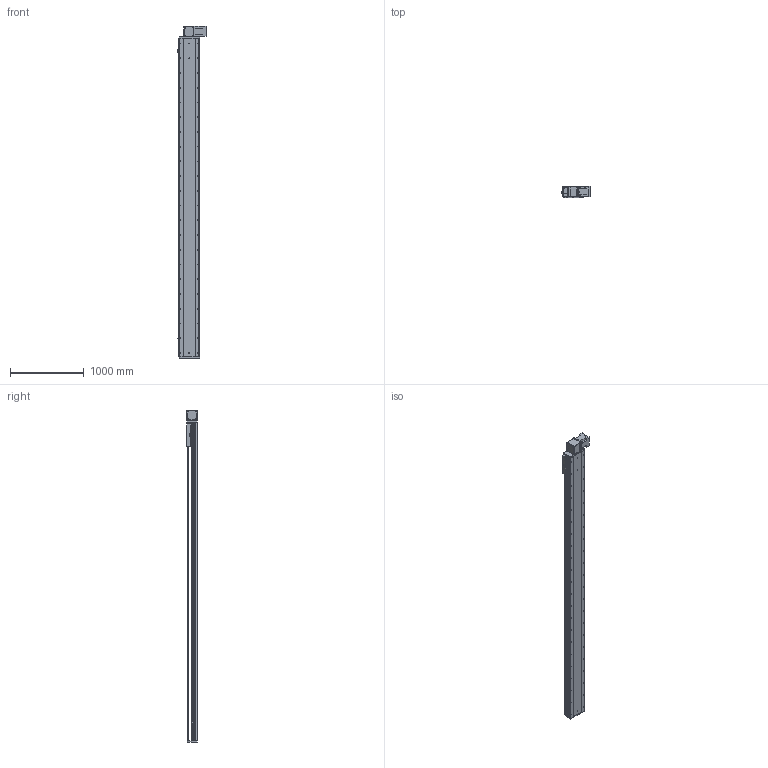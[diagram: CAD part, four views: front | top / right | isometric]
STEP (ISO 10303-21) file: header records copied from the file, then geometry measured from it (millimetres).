
FILE_DESCRIPTION (( 'STEP AP214' ), '1' );
FILE_NAME ('RTB28S-XX-3900-BL-M100-XX-C4.STEP', '2025-12-22T02:41:53', ( '' ), ( '' ), 'SwSTEP 2.0', 'SolidWorks 2018', '' );
FILE_SCHEMA (( 'AUTOMOTIVE_DESIGN' ));
Length unit declared in the file: millimetre
Products named in the file (4): RTB28S-XX-3900-BL-M100-XX-C4; RTB28S-GY-004^RTB28S-XX-XX-BL-M100-XX-C4; RTB28S-GY-008^RTB28S-XX-XX-BL-M100-XX-C4; RTB28S-GY-011^RTB28S-XX-XX-BL-M100-XX-C4
Assembly tree (3 placements, depth 2):
  RTB28S-XX-3900-BL-M100-XX-C4
    RTB28S-GY-011^RTB28S-XX-XX-BL-M100-XX-C4
    RTB28S-GY-004^RTB28S-XX-XX-BL-M100-XX-C4
    RTB28S-GY-008^RTB28S-XX-XX-BL-M100-XX-C4
Bounding box: 380.7 x 145 x 4507 mm (x, y, z)
Volume: 75289849.7 mm3; surface area: 6981177.2 mm2
Topology: 3 solids, 4 shells, 928 faces, 2508 edges, 1608 vertices
Faces by surface type: cylinder 471, plane 373, cone 80, torus 4
Entity records: 36317 total; most frequent: CARTESIAN_POINT 7102, DIRECTION 5346, ORIENTED_EDGE 4952, EDGE_CURVE 2476, AXIS2_PLACEMENT_3D 1988, VERTEX_POINT 1608, LINE 1370, VECTOR 1370
